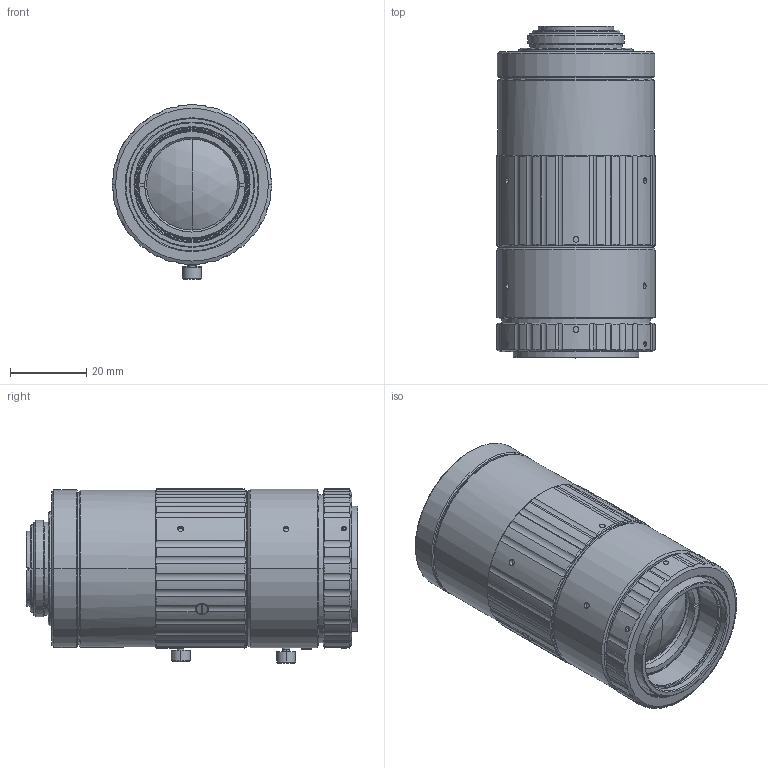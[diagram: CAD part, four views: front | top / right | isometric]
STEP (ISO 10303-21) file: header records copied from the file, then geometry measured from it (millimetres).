
FILE_DESCRIPTION (( 'STEP AP214' ), '1' );
FILE_NAME ('3D-drawing of V7531-MPZ_20190820.STEP', '2019-08-20T10:20:08', ( '' ), ( '' ), 'SwSTEP 2.0', 'SolidWorks 2013', '' );
FILE_SCHEMA (( 'AUTOMOTIVE_DESIGN' ));
Length unit declared in the file: millimetre
Products named in the file (3): 3D-drawing of V7531-MPZ_20190820; V7531-MPZ_Mechnical Limit_20190820; V7531-MPZ_Infinity_20190820
Assembly tree (2 placements, depth 2):
  3D-drawing of V7531-MPZ_20190820
    V7531-MPZ_Infinity_20190820
    V7531-MPZ_Mechnical Limit_20190820
Bounding box: 42 x 87.3 x 45.86 mm (x, y, z)
Surface area: 33945.3 mm2
Topology: 2 solids, 8 shells, 1045 faces, 2570 edges, 1628 vertices
Faces by surface type: cylinder 468, plane 317, cone 244, sphere 8, torus 8
Entity records: 36902 total; most frequent: CARTESIAN_POINT 8734, ORIENTED_EDGE 5140, DIRECTION 5130, EDGE_CURVE 2570, AXIS2_PLACEMENT_3D 1980, VERTEX_POINT 1628, VECTOR 1170, LINE 1170
